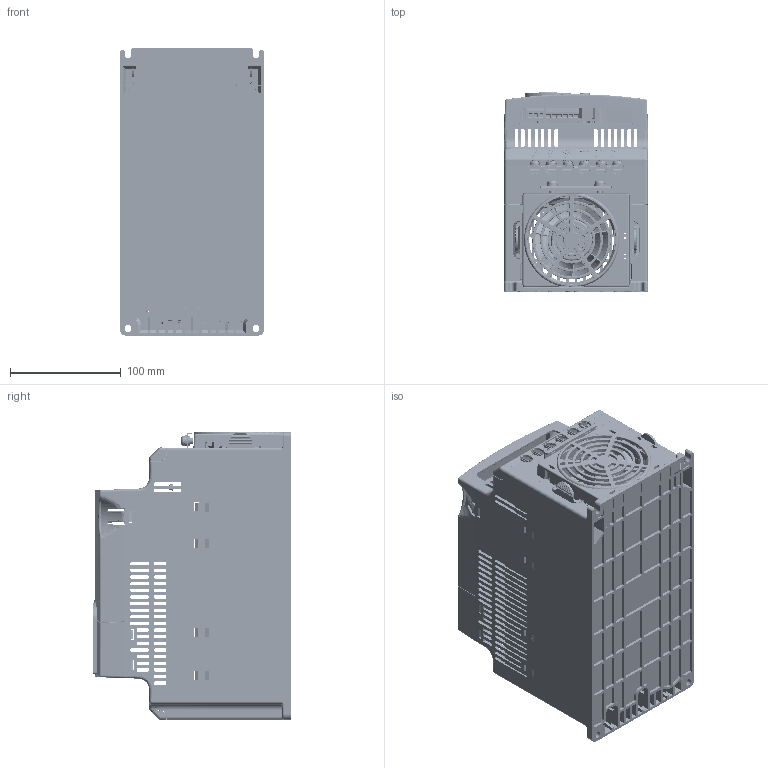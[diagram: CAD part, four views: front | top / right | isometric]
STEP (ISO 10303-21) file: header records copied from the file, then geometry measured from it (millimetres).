
FILE_DESCRIPTION((''),'2;1');
FILE_NAME('PF4M_C_OUTLINE_SW0001','2011-06-27T',('igurevi1'),('Rockwell Automation'),'PRO/ENGINEER BY PARAMETRIC TECHNOLOGY CORPORATION, 2010140','PRO/ENGINEER BY PARAMETRIC TECHNOLOGY CORPORATION, 2010140','');
FILE_SCHEMA(('CONFIG_CONTROL_DESIGN'));
Products named in the file (1): PF4M_C_OUTLINE_SW0001
Bounding box: 130 x 180 x 260.19 mm (x, y, z)
Surface area: 624816.1 mm2 (no closed solid volume)
Topology: 0 solids, 394 shells, 8002 faces, 31098 edges, 22606 vertices
Faces by surface type: plane 3946, cylinder 2485, torus 555, bspline 488, cone 311, extrusion 112, sphere 95, revolution 10
Entity records: 366244 total; most frequent: CARTESIAN_POINT 115284, DIRECTION 49523, ORIENTED_EDGE 48830, EDGE_CURVE 31059, VERTEX_POINT 22594, VECTOR 18309, LINE 18197, AXIS2_PLACEMENT_3D 15602
